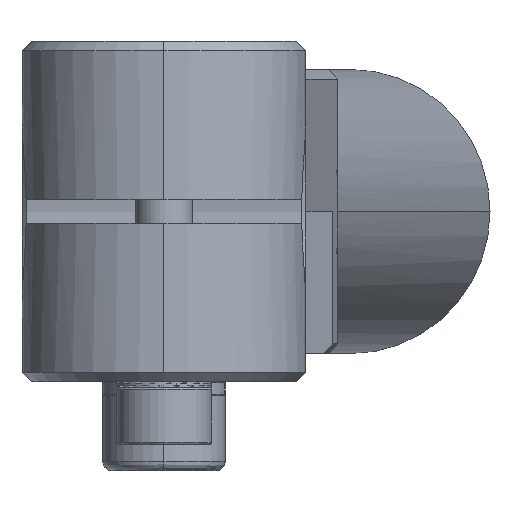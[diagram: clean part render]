
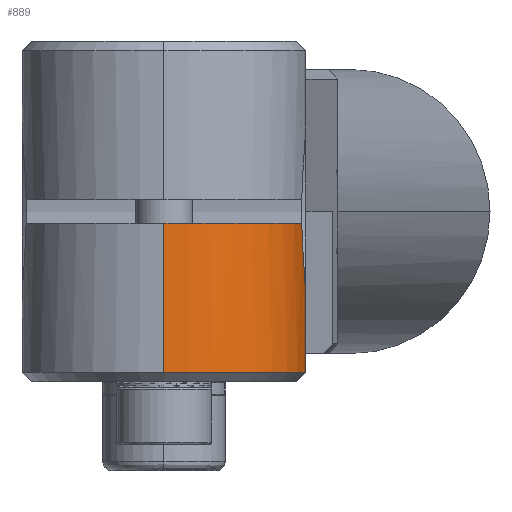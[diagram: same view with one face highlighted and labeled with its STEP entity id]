
A CAD part, left-side view. The second image highlights one B-rep face of the part: STEP entity #889.
In plain terms, the highlighted cylindrical face has radius 15 mm (diameter 30 mm), a partial arc.
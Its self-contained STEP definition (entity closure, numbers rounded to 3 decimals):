
#889 = ADVANCED_FACE ( 'NONE', ( #22817 ), #25743, .T. ) ;
#1313 = ORIENTED_EDGE ( 'NONE', *, *, #6014, .F. ) ;
#1356 = CARTESIAN_POINT ( 'NONE',  ( -38.275, 4.205, -2.814 ) ) ;
#1450 = CARTESIAN_POINT ( 'NONE',  ( -34.9, 3.821, -9.811 ) ) ;
#1721 = EDGE_CURVE ( 'NONE', #7143, #13999, #2837, .T. ) ;
#2837 = LINE ( 'NONE', #3945, #19037 ) ;
#3112 = CARTESIAN_POINT ( 'NONE',  ( -34.9, 3.821, -9.811 ) ) ;
#3725 = DIRECTION ( 'NONE',  ( 0., 0., 1. ) ) ;
#3945 = CARTESIAN_POINT ( 'NONE',  ( -49.9, 18.821, -1.25 ) ) ;
#4131 = CARTESIAN_POINT ( 'NONE',  ( -34.9, 18.821, -1.25 ) ) ;
#5085 = CARTESIAN_POINT ( 'NONE',  ( -34.9, 3.821, -17. ) ) ;
#5727 = LINE ( 'NONE', #22101, #11301 ) ;
#5819 = EDGE_CURVE ( 'NONE', #18732, #17476, #18274, .T. ) ;
#6014 = EDGE_CURVE ( 'NONE', #24880, #13999, #16931, .T. ) ;
#6353 = DIRECTION ( 'NONE',  ( -1., 0., 0. ) ) ;
#7143 = VERTEX_POINT ( 'NONE', #19580 ) ;
#7733 = CARTESIAN_POINT ( 'NONE',  ( -38.468, 4.252, -1.25 ) ) ;
#8148 = ORIENTED_EDGE ( 'NONE', *, *, #1721, .T. ) ;
#8387 = EDGE_CURVE ( 'NONE', #24880, #17476, #5727, .T. ) ;
#9449 = DIRECTION ( 'NONE',  ( 0., 0., 1. ) ) ;
#9742 = CARTESIAN_POINT ( 'NONE',  ( -38.403, 4.236, -2.035 ) ) ;
#9824 = CARTESIAN_POINT ( 'NONE',  ( -37.654, 4.073, -5.087 ) ) ;
#10044 = CARTESIAN_POINT ( 'NONE',  ( -38.468, 4.252, -1.25 ) ) ;
#11213 = AXIS2_PLACEMENT_3D ( 'NONE', #16378, #3725, #18487 ) ;
#11301 = VECTOR ( 'NONE', #9449, 1000. ) ;
#11653 = DIRECTION ( 'NONE',  ( 0., 0., -1. ) ) ;
#11939 = CARTESIAN_POINT ( 'NONE',  ( -36.69, 3.923, -7.234 ) ) ;
#13789 = AXIS2_PLACEMENT_3D ( 'NONE', #24285, #11653, #26376 ) ;
#13999 = VERTEX_POINT ( 'NONE', #23748 ) ;
#14051 = CARTESIAN_POINT ( 'NONE',  ( -35.409, 3.821, -9.209 ) ) ;
#16378 = CARTESIAN_POINT ( 'NONE',  ( -34.9, 18.821, -1.25 ) ) ;
#16931 = CIRCLE ( 'NONE', #13789, 15. ) ;
#17120 = ORIENTED_EDGE ( 'NONE', *, *, #5819, .F. ) ;
#17476 = VERTEX_POINT ( 'NONE', #3112 ) ;
#18222 = AXIS2_PLACEMENT_3D ( 'NONE', #4131, #19615, #6353 ) ;
#18274 = B_SPLINE_CURVE_WITH_KNOTS ( 'NONE', 3,
 ( #7733, #9742, #1356, #22476, #9824, #24576, #11939, #26682, #14051, #1450 ),
 .UNSPECIFIED., .F., .F.,
 ( 4, 2, 2, 2, 4 ),
 ( 0., 0.002, 0.005, 0.007, 0.009 ),
 .UNSPECIFIED. ) ;
#18487 = DIRECTION ( 'NONE',  ( -1., 0., 0. ) ) ;
#18702 = DIRECTION ( 'NONE',  ( 0., 0., -1. ) ) ;
#18732 = VERTEX_POINT ( 'NONE', #10044 ) ;
#19037 = VECTOR ( 'NONE', #18702, 1000. ) ;
#19580 = CARTESIAN_POINT ( 'NONE',  ( -49.9, 18.821, -1.25 ) ) ;
#19615 = DIRECTION ( 'NONE',  ( 0., 0., -1. ) ) ;
#19909 = ORIENTED_EDGE ( 'NONE', *, *, #8387, .T. ) ;
#21308 = EDGE_CURVE ( 'NONE', #7143, #18732, #21504, .T. ) ;
#21504 = CIRCLE ( 'NONE', #11213, 15. ) ;
#22101 = CARTESIAN_POINT ( 'NONE',  ( -34.9, 3.821, 0. ) ) ;
#22476 = CARTESIAN_POINT ( 'NONE',  ( -37.901, 4.123, -4.338 ) ) ;
#22817 = FACE_OUTER_BOUND ( 'NONE', #26287, .T. ) ;
#22865 = ORIENTED_EDGE ( 'NONE', *, *, #21308, .F. ) ;
#23748 = CARTESIAN_POINT ( 'NONE',  ( -49.9, 18.821, -17. ) ) ;
#24285 = CARTESIAN_POINT ( 'NONE',  ( -34.9, 18.821, -17. ) ) ;
#24576 = CARTESIAN_POINT ( 'NONE',  ( -37.049, 3.973, -6.534 ) ) ;
#24880 = VERTEX_POINT ( 'NONE', #5085 ) ;
#25743 = CYLINDRICAL_SURFACE ( 'NONE', #18222, 15. ) ;
#26287 = EDGE_LOOP ( 'NONE', ( #22865, #8148, #1313, #19909, #17120 ) ) ;
#26376 = DIRECTION ( 'NONE',  ( -1., 0., 0. ) ) ;
#26682 = CARTESIAN_POINT ( 'NONE',  ( -35.869, 3.847, -8.573 ) ) ;
